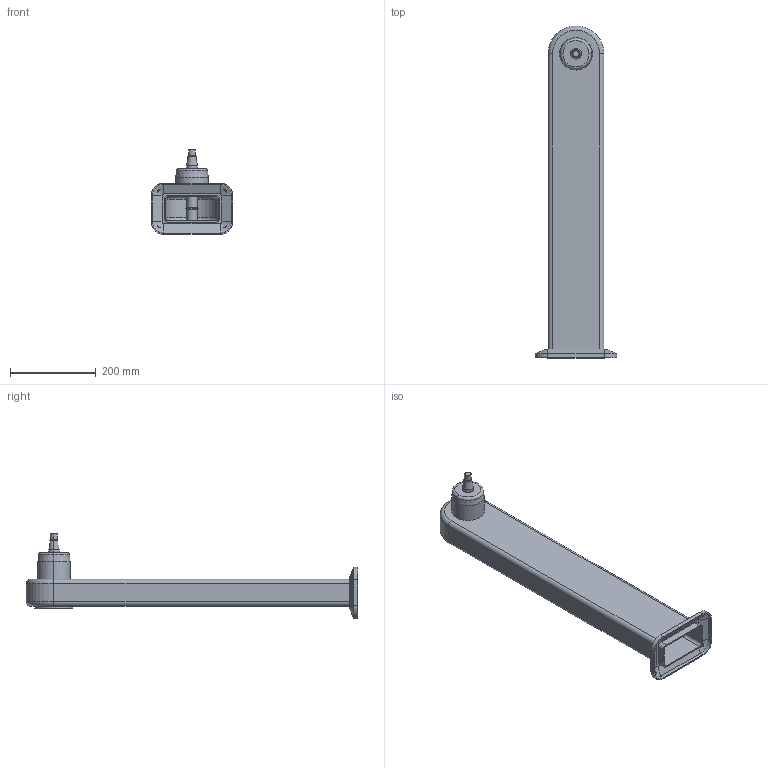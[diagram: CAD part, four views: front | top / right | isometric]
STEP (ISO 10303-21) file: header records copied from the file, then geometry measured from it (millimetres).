
FILE_DESCRIPTION (( 'STEP AP214' ), '1' );
FILE_NAME ('WP710_H710_+00.STEP', '2014-06-27T07:55:10', ( '' ), ( '' ), 'SwSTEP 2.0', 'SolidWorks 2014', '' );
FILE_SCHEMA (( 'AUTOMOTIVE_DESIGN' ));
Length unit declared in the file: millimetre
Products named in the file (1): WP710_H710_+00
Bounding box: 191 x 775 x 198 mm (x, y, z)
Volume: 1247428.9 mm3; surface area: 616781.3 mm2
Topology: 1 solids, 1 shells, 110 faces, 244 edges, 148 vertices
Faces by surface type: cylinder 42, plane 40, cone 20, torus 8
Entity records: 3157 total; most frequent: CARTESIAN_POINT 608, DIRECTION 570, ORIENTED_EDGE 488, EDGE_CURVE 244, AXIS2_PLACEMENT_3D 221, VERTEX_POINT 148, LINE 128, VECTOR 128
